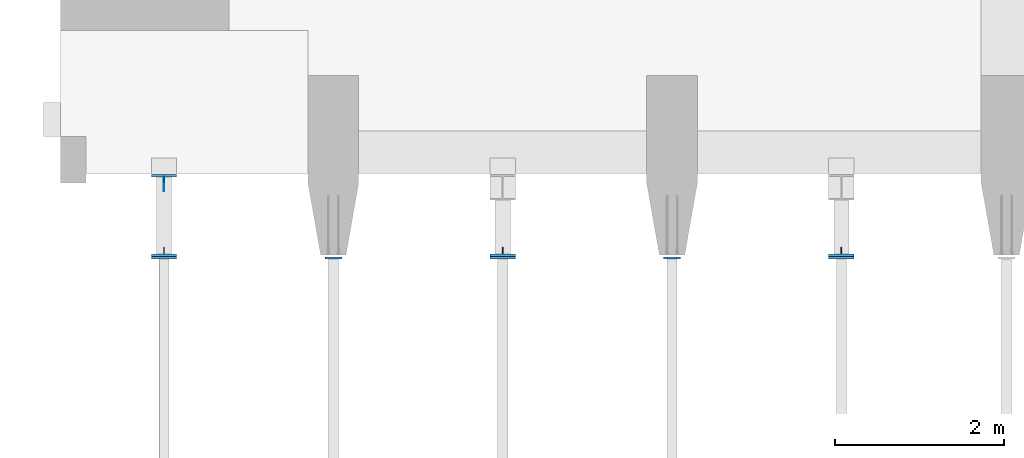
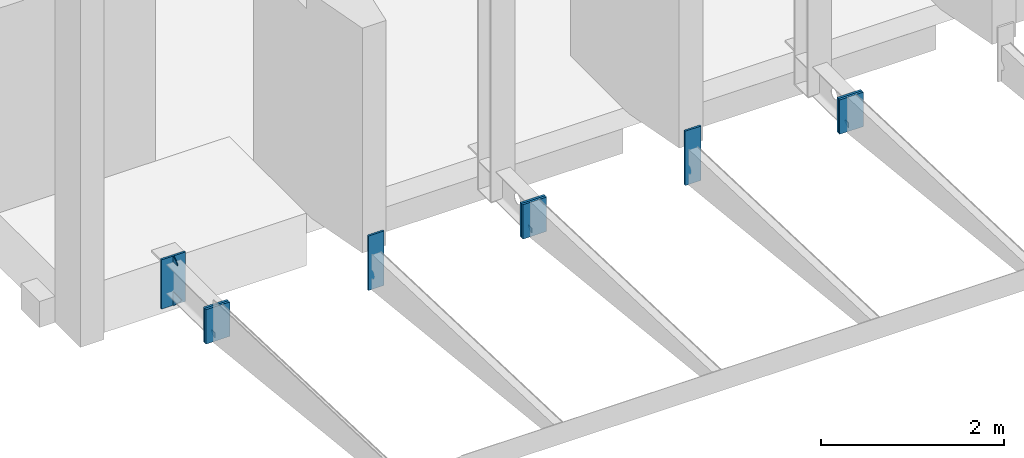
# One storey, part 3 of 27: 14 columns.
"""IFC2X3 building model written with IfcOpenShell, lengths in millimetres."""

from ifc_helpers import new_model, entity, si_unit, converted_unit, derived_unit, direction, frame, frame_2d, origin, origin_2d_with_axis, place, context, subcontext, project, spatial, rectangle, extrude, clip, halfspace, source, transform, mapped, material, type_object, type_shapes, element, save


model = new_model("IFC2X3")

# Units and contexts
model_context = context("Model", 3, precision=0.01, world=origin(), true_north=direction((6.12303176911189e-17, 1.0)))
body_context = subcontext(model_context, "Body", "Model", "MODEL_VIEW")
ifc_project = project(units=[si_unit("LENGTHUNIT", "METRE", prefix="MILLI"), si_unit("AREAUNIT", "SQUARE_METRE"), si_unit("VOLUMEUNIT", "CUBIC_METRE"), converted_unit("PLANEANGLEUNIT", "DEGREE", entity("IfcRatioMeasure", 0.0174532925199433), si_unit("PLANEANGLEUNIT", "RADIAN"), dimensions=[0, 0, 0, 0, 0, 0, 0]), si_unit("MASSUNIT", "GRAM", prefix="KILO"), derived_unit("MASSDENSITYUNIT", [(si_unit("MASSUNIT", "GRAM", prefix="KILO"), 1), (si_unit("LENGTHUNIT", "METRE"), -3)]), si_unit("TIMEUNIT", "SECOND"), si_unit("FREQUENCYUNIT", "HERTZ"), si_unit("THERMODYNAMICTEMPERATUREUNIT", "DEGREE_CELSIUS"), derived_unit("THERMALTRANSMITTANCEUNIT", [(si_unit("MASSUNIT", "GRAM", prefix="KILO"), 1), (si_unit("THERMODYNAMICTEMPERATUREUNIT", "KELVIN"), -1), (si_unit("TIMEUNIT", "SECOND"), -3)]), derived_unit("VOLUMETRICFLOWRATEUNIT", [(si_unit("LENGTHUNIT", "METRE"), 3), (si_unit("TIMEUNIT", "SECOND"), -1)]), si_unit("ELECTRICCURRENTUNIT", "AMPERE"), si_unit("ELECTRICVOLTAGEUNIT", "VOLT"), si_unit("POWERUNIT", "WATT"), si_unit("FORCEUNIT", "NEWTON", prefix="KILO"), si_unit("ILLUMINANCEUNIT", "LUX"), si_unit("LUMINOUSFLUXUNIT", "LUMEN"), si_unit("LUMINOUSINTENSITYUNIT", "CANDELA"), derived_unit("USERDEFINED", [(si_unit("MASSUNIT", "GRAM", prefix="KILO"), -1), (si_unit("LENGTHUNIT", "METRE"), -2), (si_unit("TIMEUNIT", "SECOND"), 3), (si_unit("LUMINOUSFLUXUNIT", "LUMEN"), 1)]), derived_unit("LINEARVELOCITYUNIT", [(si_unit("LENGTHUNIT", "METRE"), 1), (si_unit("TIMEUNIT", "SECOND"), -1)]), si_unit("PRESSUREUNIT", "PASCAL"), derived_unit("USERDEFINED", [(si_unit("LENGTHUNIT", "METRE"), -2), (si_unit("MASSUNIT", "GRAM", prefix="KILO"), 1), (si_unit("TIMEUNIT", "SECOND"), -2)])], contexts=[model_context])

# Site, building, storey
site_placement = place(None, origin())
site = spatial("IfcSite", under=ifc_project, at=site_placement, Name="Default", CompositionType="ELEMENT")
building_placement = place(site_placement, origin())
building = spatial("IfcBuilding", under=site, at=building_placement, Name="niet gebruiken", CompositionType="ELEMENT")
storey_placement = place(building_placement, frame((0.0, 0.0, 6000.0)))
storey = spatial("IfcBuildingStorey", under=building, at=storey_placement, Name="01 eerste verdieping", CompositionType="ELEMENT", Elevation=6000.0)

# Columns
ifc_material = material(Name="NLRS_h2_staal")
column_type_1 = type_object("IfcColumnType", Name="kolom stripstaal RECT_200x25", PredefinedType="COLUMN", material=ifc_material)
shared_shape_1 = source(origin(), body_context, "Body", "SweptSolid", [
    extrude(rectangle(XDim=25.0, YDim=200.0, at=origin_2d_with_axis()), frame((0.0, 0.0, 5418.0), z_axis=(0.0, 0.0, 1.0), x_axis=(0.0, -1.0, 0.0)), (0.0, 0.0, 1.0), 726.999999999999),
])
type_shapes(column_type_1, [shared_shape_1])
for number, where, name in (
    (1, (131750.0, 117.500000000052, -6000.0), "NLRS_28.11_SCO_TLB_stalen kolom stripstaal_gen:kolom stripstaal RECT_200x25"),
    (2, (127750.0, 117.500000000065, -6000.0), "NLRS_28.11_SCO_TLB_stalen kolom stripstaal_gen:kolom stripstaal RECT_200x25"),
):
    element("IfcColumn", number, at=place(storey_placement, frame(where)), inside=storey, type_object=column_type_1, material=ifc_material, Name=name, ObjectType="kolom stripstaal RECT_200x25", context=body_context, shape_type="MappedRepresentation", body=[
        mapped(shared_shape_1, transform((0.0, 0.0, 0.0), scale=1.0)),
    ])
column_type_2 = type_object("IfcColumnType", Name="kolom stripstaal RECT_300x30", PredefinedType="COLUMN", material=ifc_material)
shared_shape_2 = source(origin(), body_context, "Body", "SweptSolid", [
    extrude(rectangle(XDim=30.0, YDim=300.0, at=origin_2d_with_axis()), frame((0.0, 0.0, 5420.0), z_axis=(0.0, 0.0, 1.0), x_axis=(0.0, -1.0, 0.0)), (0.0, 0.0, 1.0), 460.0),
])
type_shapes(column_type_2, [shared_shape_2])
for number, where, name in (
    (3, (125750.0, 120.0, -6000.0), "NLRS_28.11_SCO_TLB_stalen kolom stripstaal_gen:kolom stripstaal RECT_300x30"),
    (4, (125750.0, 150.0, -6000.0), "NLRS_28.11_SCO_TLB_stalen kolom stripstaal_gen:kolom stripstaal RECT_300x30"),
    (5, (129750.0, 120.0, -6000.0), "NLRS_28.11_SCO_TLB_stalen kolom stripstaal_gen:kolom stripstaal RECT_300x30"),
    (6, (129750.0, 150.0, -6000.0), "NLRS_28.11_SCO_TLB_stalen kolom stripstaal_gen:kolom stripstaal RECT_300x30"),
    (7, (133750.0, 120.0, -6000.0), "NLRS_28.11_SCO_TLB_stalen kolom stripstaal_gen:kolom stripstaal RECT_300x30"),
    (8, (133750.0, 150.0, -6000.0), "NLRS_28.11_SCO_TLB_stalen kolom stripstaal_gen:kolom stripstaal RECT_300x30"),
):
    element("IfcColumn", number, at=place(storey_placement, frame(where)), inside=storey, type_object=column_type_2, material=ifc_material, Name=name, ObjectType="kolom stripstaal RECT_300x30", context=body_context, shape_type="MappedRepresentation", body=[
        mapped(shared_shape_2, transform((0.0, 0.0, 0.0), scale=1.0)),
    ])
column_type_3 = type_object("IfcColumnType", Name="kolom stripstaal RECT_80x10", PredefinedType="COLUMN", material=ifc_material)
shared_shape_3 = source(origin(), body_context, "Body", "Clipping", [
    clip(extrude(rectangle(XDim=9.99999999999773, YDim=80.0, at=frame_2d((0.0, 1.03028696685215e-13), x_axis=(1.0, 0.0))), frame((125750.0, 205.0, 5415.0)), (0.0, 0.0, 1.0), 64.9999999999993), halfspace(frame((125670.0, 185.500105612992, 5415.0001098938), z_axis=(0.0, 0.592802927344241, -0.805347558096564), x_axis=(1.0, 0.0, 0.0)), False)),
])
type_shapes(column_type_3, [shared_shape_3])
column_1_placement = place(storey_placement, frame((0.0, 0.0, -6000.0)))
element("IfcColumn", 9, at=column_1_placement, inside=storey, type_object=column_type_3, material=ifc_material, Name="NLRS_28.11_SCO_TLB_stalen kolom stripstaal_gen:kolom stripstaal RECT_80x10", ObjectType="kolom stripstaal RECT_80x10", context=body_context, shape_type="MappedRepresentation", body=[
    mapped(shared_shape_3, transform((0.0, 0.0, 0.0), scale=1.0)),
])
column_type_4 = type_object("IfcColumnType", Name="kolom stripstaal RECT_300x25", PredefinedType="COLUMN", material=ifc_material)
shared_shape_4 = source(origin(), body_context, "Body", "SweptSolid", [
    extrude(rectangle(XDim=25.0, YDim=300.0, at=origin_2d_with_axis()), frame((0.0, 0.0, 5300.0), z_axis=(0.0, 0.0, 1.0), x_axis=(0.0, -1.0, 0.0)), (0.0, 0.0, 1.0), 660.000000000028),
])
type_shapes(column_type_4, [shared_shape_4])
column_2_placement = place(storey_placement, frame((125750.0, 1086.50000000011, -6000.0)))
element("IfcColumn", 10, at=column_2_placement, inside=storey, type_object=column_type_4, material=ifc_material, Name="NLRS_28.11_SCO_TLB_stalen kolom stripstaal_gen:kolom stripstaal RECT_300x25", ObjectType="kolom stripstaal RECT_300x25", context=body_context, shape_type="MappedRepresentation", body=[
    mapped(shared_shape_4, transform((0.0, 0.0, 0.0), scale=1.0)),
])
column_type_5 = type_object("IfcColumnType", Name="kolom stripstaal RECT_90x10", PredefinedType="COLUMN", material=ifc_material)
shared_shape_5 = source(origin(), body_context, "Body", "Clipping", [
    clip(extrude(rectangle(XDim=9.99999999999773, YDim=90.0, at=frame_2d((0.0, 6.75015598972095e-14), x_axis=(1.0, 0.0))), frame((125750.0, 1029.0, 5880.0)), (0.0, 0.0, 1.0), 80.0000000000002), halfspace(frame((125660.0, 1064.0, 5960.0), z_axis=(0.0, -0.613940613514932, 0.789352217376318), x_axis=(1.0, 0.0, 0.0)), False)),
])
type_shapes(column_type_5, [shared_shape_5])
column_3_placement = place(storey_placement, frame((0.0, 0.0, -6000.0)))
element("IfcColumn", 11, at=column_3_placement, inside=storey, type_object=column_type_5, material=ifc_material, Name="NLRS_28.11_SCO_TLB_stalen kolom stripstaal_gen:kolom stripstaal RECT_90x10", ObjectType="kolom stripstaal RECT_90x10", context=body_context, shape_type="MappedRepresentation", body=[
    mapped(shared_shape_5, transform((0.0, 0.0, 0.0), scale=1.0)),
])
column_type_6 = type_object("IfcColumnType", Name="kolom stripstaal RECT_170x10", PredefinedType="COLUMN", material=ifc_material)
shared_shape_6 = source(origin(), body_context, "Body", "Clipping", [
    clip(extrude(rectangle(XDim=9.99999999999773, YDim=170.0, at=frame_2d((0.0, -6.3948846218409e-14), x_axis=(1.0, 0.0))), frame((125750.0, 989.0, 5300.0)), (0.0, 0.0, 1.0), 180.0), halfspace(frame((125570.0, 894.0, 5470.0), z_axis=(0.0, -0.707106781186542, -0.707106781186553), x_axis=(1.0, 0.0, 0.0)), False)),
])
type_shapes(column_type_6, [shared_shape_6])
column_4_placement = place(storey_placement, frame((0.0, 0.0, -6000.0)))
element("IfcColumn", 12, at=column_4_placement, inside=storey, type_object=column_type_6, material=ifc_material, Name="NLRS_28.11_SCO_TLB_stalen kolom stripstaal_gen:kolom stripstaal RECT_170x10", ObjectType="kolom stripstaal RECT_170x10", context=body_context, shape_type="MappedRepresentation", body=[
    mapped(shared_shape_6, transform((0.0, 0.0, 0.0), scale=1.0)),
])
column_type_7 = type_object("IfcColumnType", Name="kolom stripstaal RECT_80x10", PredefinedType="COLUMN", material=ifc_material)
shared_shape_7 = source(origin(), body_context, "Body", "Clipping", [
    clip(extrude(rectangle(XDim=9.99999999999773, YDim=80.0, at=frame_2d((-1.73256964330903e-11, 0.0), x_axis=(1.0, 0.0))), frame((129750.0, 205.0, 5415.0)), (0.0, 0.0, 1.0), 64.9999999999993), halfspace(frame((129670.0, 185.500105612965, 5415.0001098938), z_axis=(0.0, 0.592802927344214, -0.805347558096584), x_axis=(1.0, 0.0, 0.0)), False)),
])
type_shapes(column_type_7, [shared_shape_7])
column_5_placement = place(storey_placement, frame((0.0, 0.0, -6000.0)))
element("IfcColumn", 13, at=column_5_placement, inside=storey, type_object=column_type_7, material=ifc_material, Name="NLRS_28.11_SCO_TLB_stalen kolom stripstaal_gen:kolom stripstaal RECT_80x10", ObjectType="kolom stripstaal RECT_80x10", context=body_context, shape_type="MappedRepresentation", body=[
    mapped(shared_shape_7, transform((0.0, 0.0, 0.0), scale=1.0)),
])
column_type_8 = type_object("IfcColumnType", Name="kolom stripstaal RECT_80x10", PredefinedType="COLUMN", material=ifc_material)
shared_shape_8 = source(origin(), body_context, "Body", "Clipping", [
    clip(extrude(rectangle(XDim=9.99999999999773, YDim=80.0, at=frame_2d((0.0, 4.9737991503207e-14), x_axis=(1.0, 0.0))), frame((133750.0, 205.0, 5415.0)), (0.0, 0.0, 1.0), 64.9999999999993), halfspace(frame((133670.0, 185.500105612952, 5415.0001098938), z_axis=(0.0, 0.592802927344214, -0.805347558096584), x_axis=(1.0, 0.0, 0.0)), False)),
])
type_shapes(column_type_8, [shared_shape_8])
column_6_placement = place(storey_placement, frame((0.0, 0.0, -6000.0)))
element("IfcColumn", 14, at=column_6_placement, inside=storey, type_object=column_type_8, material=ifc_material, Name="NLRS_28.11_SCO_TLB_stalen kolom stripstaal_gen:kolom stripstaal RECT_80x10", ObjectType="kolom stripstaal RECT_80x10", context=body_context, shape_type="MappedRepresentation", body=[
    mapped(shared_shape_8, transform((0.0, 0.0, 0.0), scale=1.0)),
])

save(model, "model.ifc")
